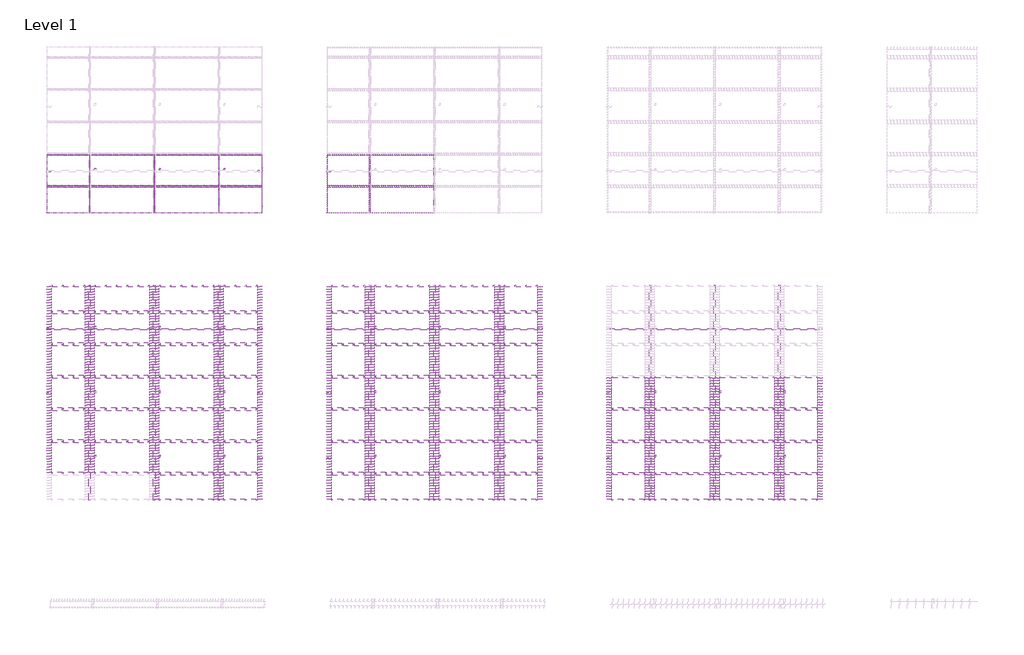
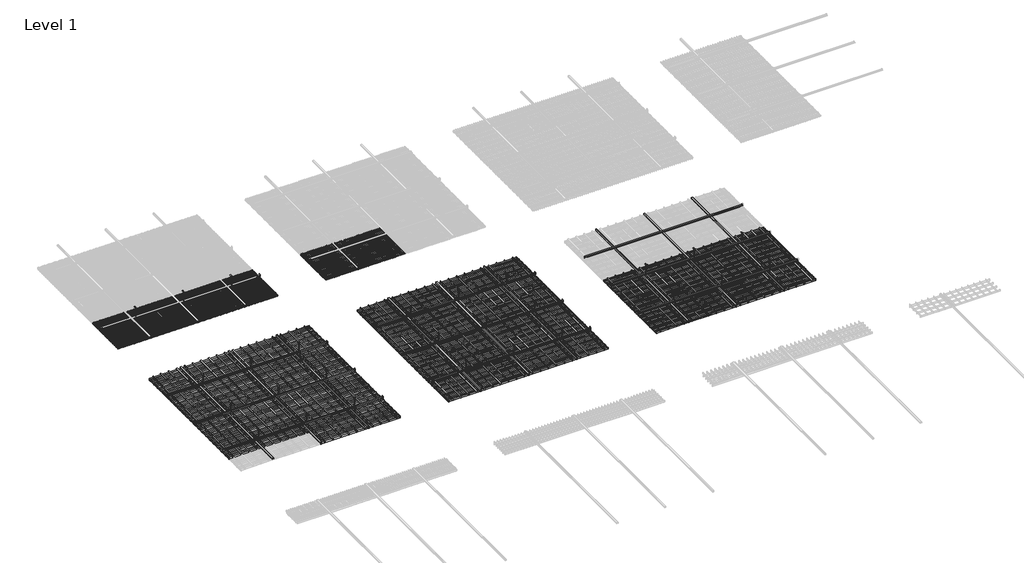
# One storey, part 27 of 32: 137 proxies.
"""IFC4 building model written with IfcOpenShell, lengths in millimetres."""

from ifc_helpers import new_model, si_unit, origin, place, context, project, spatial, transform, mapped, element, save
from components import generic_models_6f951ca4, generic_models_6d1325e8, generic_models_8d9bcc0e, generic_models_f4ce44e0, generic_models_5ffb89bc, generic_models_532bcb0d, generic_models_b040cb43, generic_models_bbbf1810, generic_models_8942baac, generic_models_6e84f04d, generic_models_dcda3682, generic_models_90ec37a6, generic_models_4fd2051e, generic_models_a47dbadd, generic_models_69343ad7, generic_models_9f873a07, generic_models_7333d896, generic_models_9e2ca137, generic_models_001e4b3a, generic_models_ea39767a, generic_models_2c5692c7, generic_models_a736a9a8, generic_models_489bbaa8, generic_models_f6474ad0, generic_models_28f6a95c, generic_models_9e18e937

model = new_model("IFC4")

# Units and contexts
model_context = context("Model", 3, world=origin())
ifc_project = project(units=[si_unit("LENGTHUNIT", "METRE", prefix="MILLI")], contexts=[model_context])

# Site, building, storey
site = spatial("IfcSite", under=ifc_project)
building = spatial("IfcBuilding", under=site)
storey = spatial("IfcBuildingStorey", under=building, Name="Level 1", Elevation=0.0)

# Proxies
placement = place(None, origin())
generic_models_shape = generic_models_6f951ca4(model_context)
element("IfcBuildingElementProxy", 1, Name="durlum_STARLAM_panel : durlum_STARLAM_4", ObjectType="durlum_STARLAM_panel : durlum_STARLAM_4", at=placement, inside=storey, context=model_context, shape_type="MappedRepresentation", body=[
    mapped(generic_models_shape, transform((35317.1423778, 3138.9976834, 3700.0), x_axis=(1.0, 0.0, 0.0), y_axis=(0.0, 1.0, 0.0), z_axis=(0.0, 0.0, 1.0))),
])
element("IfcBuildingElementProxy", 2, Name="durlum_STARLAM_panel : durlum_STARLAM_4", ObjectType="durlum_STARLAM_panel : durlum_STARLAM_4", at=placement, inside=storey, context=model_context, shape_type="MappedRepresentation", body=[
    mapped(generic_models_shape, transform((36517.1423778, 3138.9976834, 3700.0), x_axis=(1.0, 0.0, 0.0), y_axis=(0.0, 1.0, 0.0), z_axis=(0.0, 0.0, 1.0))),
])
element("IfcBuildingElementProxy", 3, Name="durlum_STARLAM_panel : durlum_STARLAM_4", ObjectType="durlum_STARLAM_panel : durlum_STARLAM_4", at=placement, inside=storey, context=model_context, shape_type="MappedRepresentation", body=[
    mapped(generic_models_shape, transform((35317.1423778, 3738.9976834, 3700.0), x_axis=(1.0, 0.0, 0.0), y_axis=(0.0, 1.0, 0.0), z_axis=(0.0, 0.0, 1.0))),
])
element("IfcBuildingElementProxy", 4, Name="durlum_STARLAM_panel : durlum_STARLAM_4", ObjectType="durlum_STARLAM_panel : durlum_STARLAM_4", at=placement, inside=storey, context=model_context, shape_type="MappedRepresentation", body=[
    mapped(generic_models_shape, transform((36517.1423778, 3738.9976834, 3700.0), x_axis=(1.0, 0.0, 0.0), y_axis=(0.0, 1.0, 0.0), z_axis=(0.0, 0.0, 1.0))),
])
element("IfcBuildingElementProxy", 5, Name="durlum_STARLAM_panel : durlum_STARLAM_4", ObjectType="durlum_STARLAM_panel : durlum_STARLAM_4", at=placement, inside=storey, context=model_context, shape_type="MappedRepresentation", body=[
    mapped(generic_models_shape, transform((35317.1423778, 4338.9976834, 3700.0), x_axis=(1.0, 0.0, 0.0), y_axis=(0.0, 1.0, 0.0), z_axis=(0.0, 0.0, 1.0))),
])
element("IfcBuildingElementProxy", 6, Name="durlum_STARLAM_panel : durlum_STARLAM_4", ObjectType="durlum_STARLAM_panel : durlum_STARLAM_4", at=placement, inside=storey, context=model_context, shape_type="MappedRepresentation", body=[
    mapped(generic_models_shape, transform((36517.1423778, 4338.9976834, 3700.0), x_axis=(1.0, 0.0, 0.0), y_axis=(0.0, 1.0, 0.0), z_axis=(0.0, 0.0, 1.0))),
])
element("IfcBuildingElementProxy", 7, Name="durlum_STARLAM_panel : durlum_STARLAM_4", ObjectType="durlum_STARLAM_panel : durlum_STARLAM_4", at=placement, inside=storey, context=model_context, shape_type="MappedRepresentation", body=[
    mapped(generic_models_shape, transform((35317.1423778, 2538.9976834, 3700.0), x_axis=(1.0, 0.0, 0.0), y_axis=(0.0, 1.0, 0.0), z_axis=(0.0, 0.0, 1.0))),
])
element("IfcBuildingElementProxy", 8, Name="durlum_STARLAM_panel : durlum_STARLAM_4", ObjectType="durlum_STARLAM_panel : durlum_STARLAM_4", at=placement, inside=storey, context=model_context, shape_type="MappedRepresentation", body=[
    mapped(generic_models_shape, transform((36517.1423778, 2538.9976834, 3700.0), x_axis=(1.0, 0.0, 0.0), y_axis=(0.0, 1.0, 0.0), z_axis=(0.0, 0.0, 1.0))),
])
element("IfcBuildingElementProxy", 9, Name="durlum_STARLAM_panel : durlum_STARLAM_4", ObjectType="durlum_STARLAM_panel : durlum_STARLAM_4", at=placement, inside=storey, context=model_context, shape_type="MappedRepresentation", body=[
    mapped(generic_models_shape, transform((35317.1423778, 4938.9976834, 3700.0), x_axis=(1.0, 0.0, 0.0), y_axis=(0.0, 1.0, 0.0), z_axis=(0.0, 0.0, 1.0))),
])
element("IfcBuildingElementProxy", 10, Name="durlum_STARLAM_panel : durlum_STARLAM_4", ObjectType="durlum_STARLAM_panel : durlum_STARLAM_4", at=placement, inside=storey, context=model_context, shape_type="MappedRepresentation", body=[
    mapped(generic_models_shape, transform((36517.1423778, 4938.9976834, 3700.0), x_axis=(1.0, 0.0, 0.0), y_axis=(0.0, 1.0, 0.0), z_axis=(0.0, 0.0, 1.0))),
])
generic_models_2_shape = generic_models_6d1325e8(model_context)
element("IfcBuildingElementProxy", 11, Name="durlum_STARLAM_panel : durlum_STARLAM_4_length_cut", ObjectType="durlum_STARLAM_panel : durlum_STARLAM_4_length_cut", at=placement, inside=storey, context=model_context, shape_type="MappedRepresentation", body=[
    mapped(generic_models_2_shape, transform((37517.2673778, 4338.9976834, 3700.0), x_axis=(1.0, 0.0, 0.0), y_axis=(0.0, 1.0, 0.0), z_axis=(0.0, 0.0, 1.0))),
])
element("IfcBuildingElementProxy", 12, Name="durlum_STARLAM_panel : durlum_STARLAM_4_length_cut", ObjectType="durlum_STARLAM_panel : durlum_STARLAM_4_length_cut", at=placement, inside=storey, context=model_context, shape_type="MappedRepresentation", body=[
    mapped(generic_models_2_shape, transform((37517.2673778, 3738.9976834, 3700.0), x_axis=(1.0, 0.0, 0.0), y_axis=(0.0, 1.0, 0.0), z_axis=(0.0, 0.0, 1.0))),
])
element("IfcBuildingElementProxy", 13, Name="durlum_STARLAM_panel : durlum_STARLAM_4_length_cut", ObjectType="durlum_STARLAM_panel : durlum_STARLAM_4_length_cut", at=placement, inside=storey, context=model_context, shape_type="MappedRepresentation", body=[
    mapped(generic_models_2_shape, transform((37517.2673778, 3138.9976834, 3700.0), x_axis=(1.0, 0.0, 0.0), y_axis=(0.0, 1.0, 0.0), z_axis=(0.0, 0.0, 1.0))),
])
element("IfcBuildingElementProxy", 14, Name="durlum_STARLAM_panel : durlum_STARLAM_4_length_cut", ObjectType="durlum_STARLAM_panel : durlum_STARLAM_4_length_cut", at=placement, inside=storey, context=model_context, shape_type="MappedRepresentation", body=[
    mapped(generic_models_2_shape, transform((34317.0173778, 4338.9976834, 3700.0), x_axis=(1.0, 0.0, 0.0), y_axis=(0.0, 1.0, 0.0), z_axis=(0.0, 0.0, 1.0))),
])
element("IfcBuildingElementProxy", 15, Name="durlum_STARLAM_panel : durlum_STARLAM_4_length_cut", ObjectType="durlum_STARLAM_panel : durlum_STARLAM_4_length_cut", at=placement, inside=storey, context=model_context, shape_type="MappedRepresentation", body=[
    mapped(generic_models_2_shape, transform((34317.0173778, 3738.9976834, 3700.0), x_axis=(1.0, 0.0, 0.0), y_axis=(0.0, 1.0, 0.0), z_axis=(0.0, 0.0, 1.0))),
])
element("IfcBuildingElementProxy", 16, Name="durlum_STARLAM_panel : durlum_STARLAM_4_length_cut", ObjectType="durlum_STARLAM_panel : durlum_STARLAM_4_length_cut", at=placement, inside=storey, context=model_context, shape_type="MappedRepresentation", body=[
    mapped(generic_models_2_shape, transform((34317.0173778, 3138.9976834, 3700.0), x_axis=(1.0, 0.0, 0.0), y_axis=(0.0, 1.0, 0.0), z_axis=(0.0, 0.0, 1.0))),
])
element("IfcBuildingElementProxy", 17, Name="durlum_STARLAM_panel : durlum_STARLAM_4_length_cut", ObjectType="durlum_STARLAM_panel : durlum_STARLAM_4_length_cut", at=placement, inside=storey, context=model_context, shape_type="MappedRepresentation", body=[
    mapped(generic_models_2_shape, transform((34317.0173778, 4938.9976834, 3700.0), x_axis=(1.0, 0.0, 0.0), y_axis=(0.0, 1.0, 0.0), z_axis=(0.0, 0.0, 1.0))),
])
element("IfcBuildingElementProxy", 18, Name="durlum_STARLAM_panel : durlum_STARLAM_4_length_cut", ObjectType="durlum_STARLAM_panel : durlum_STARLAM_4_length_cut", at=placement, inside=storey, context=model_context, shape_type="MappedRepresentation", body=[
    mapped(generic_models_2_shape, transform((37517.2673778, 4938.9976834, 3700.0), x_axis=(1.0, 0.0, 0.0), y_axis=(0.0, 1.0, 0.0), z_axis=(0.0, 0.0, 1.0))),
])
element("IfcBuildingElementProxy", 19, Name="durlum_STARLAM_panel : durlum_STARLAM_4_length_cut", ObjectType="durlum_STARLAM_panel : durlum_STARLAM_4_length_cut", at=placement, inside=storey, context=model_context, shape_type="MappedRepresentation", body=[
    mapped(generic_models_2_shape, transform((34317.0173778, 2538.9976834, 3700.0), x_axis=(1.0, 0.0, 0.0), y_axis=(0.0, 1.0, 0.0), z_axis=(0.0, 0.0, 1.0))),
])
element("IfcBuildingElementProxy", 20, Name="durlum_STARLAM_panel : durlum_STARLAM_4_length_cut", ObjectType="durlum_STARLAM_panel : durlum_STARLAM_4_length_cut", at=placement, inside=storey, context=model_context, shape_type="MappedRepresentation", body=[
    mapped(generic_models_2_shape, transform((37517.2673778, 2538.9976834, 3700.0), x_axis=(1.0, 0.0, 0.0), y_axis=(0.0, 1.0, 0.0), z_axis=(0.0, 0.0, 1.0))),
])
generic_models_3_shape = generic_models_8d9bcc0e(model_context)
element("IfcBuildingElementProxy", 21, Name="durlum_STARLAM_panel : durlum_STARLAM_4_width_cut", ObjectType="durlum_STARLAM_panel : durlum_STARLAM_4_width_cut", at=placement, inside=storey, context=model_context, shape_type="MappedRepresentation", body=[
    mapped(generic_models_3_shape, transform((36517.1423778, 1988.9976834, 3700.0), x_axis=(1.0, 0.0, 0.0), y_axis=(0.0, 1.0, 0.0), z_axis=(0.0, 0.0, 1.0))),
])
element("IfcBuildingElementProxy", 22, Name="durlum_STARLAM_panel : durlum_STARLAM_4_width_cut", ObjectType="durlum_STARLAM_panel : durlum_STARLAM_4_width_cut", at=placement, inside=storey, context=model_context, shape_type="MappedRepresentation", body=[
    mapped(generic_models_3_shape, transform((35317.1423778, 5488.9976834, 3700.0), x_axis=(1.0, 0.0, 0.0), y_axis=(0.0, 1.0, 0.0), z_axis=(0.0, 0.0, 1.0))),
])
element("IfcBuildingElementProxy", 23, Name="durlum_STARLAM_panel : durlum_STARLAM_4_width_cut", ObjectType="durlum_STARLAM_panel : durlum_STARLAM_4_width_cut", at=placement, inside=storey, context=model_context, shape_type="MappedRepresentation", body=[
    mapped(generic_models_3_shape, transform((36517.1423778, 5488.9976834, 3700.0), x_axis=(1.0, 0.0, 0.0), y_axis=(0.0, 1.0, 0.0), z_axis=(0.0, 0.0, 1.0))),
])
generic_models_4_shape = generic_models_f4ce44e0(model_context)
element("IfcBuildingElementProxy", 24, Name="durlum_U94 : durlum_U94", ObjectType="durlum_U94 : durlum_U94", at=placement, inside=storey, context=model_context, shape_type="MappedRepresentation", body=[
    mapped(generic_models_4_shape, transform((46317.1423778, 3738.9976834, 3736.0), x_axis=(0.0, 1.0, 0.0), y_axis=(-1.0, 0.0, 0.0), z_axis=(0.0, 0.0, 1.0))),
])
element("IfcBuildingElementProxy", 25, Name="durlum_U94 : durlum_U94", ObjectType="durlum_U94 : durlum_U94", at=placement, inside=storey, context=model_context, shape_type="MappedRepresentation", body=[
    mapped(generic_models_4_shape, transform((45117.1423778, 3738.9976834, 3736.0), x_axis=(0.0, 1.0, 0.0), y_axis=(-1.0, 0.0, 0.0), z_axis=(0.0, 0.0, 1.0))),
])
element("IfcBuildingElementProxy", 26, Name="durlum_U94 : durlum_U94", ObjectType="durlum_U94 : durlum_U94", at=placement, inside=storey, context=model_context, shape_type="MappedRepresentation", body=[
    mapped(generic_models_4_shape, transform((47517.1423778, 3738.9976834, 3736.0), x_axis=(0.0, 1.0, 0.0), y_axis=(-1.0, 0.0, 0.0), z_axis=(0.0, 0.0, 1.0))),
])
element("IfcBuildingElementProxy", 27, Name="durlum_U94 : durlum_U94", ObjectType="durlum_U94 : durlum_U94", at=placement, inside=storey, context=model_context, shape_type="MappedRepresentation", body=[
    mapped(generic_models_4_shape, transform((41117.1423778, 3738.9976834, 3736.0), x_axis=(0.0, 1.0, 0.0), y_axis=(-1.0, 0.0, 0.0), z_axis=(0.0, 0.0, 1.0))),
])
element("IfcBuildingElementProxy", 28, Name="durlum_U94 : durlum_U94", ObjectType="durlum_U94 : durlum_U94", at=placement, inside=storey, context=model_context, shape_type="MappedRepresentation", body=[
    mapped(generic_models_4_shape, transform((39917.1423778, 3738.9976834, 3736.0), x_axis=(0.0, 1.0, 0.0), y_axis=(-1.0, 0.0, 0.0), z_axis=(0.0, 0.0, 1.0))),
])
element("IfcBuildingElementProxy", 29, Name="durlum_U94 : durlum_U94", ObjectType="durlum_U94 : durlum_U94", at=placement, inside=storey, context=model_context, shape_type="MappedRepresentation", body=[
    mapped(generic_models_4_shape, transform((42317.1423778, 3738.9976834, 3736.0), x_axis=(0.0, 1.0, 0.0), y_axis=(-1.0, 0.0, 0.0), z_axis=(0.0, 0.0, 1.0))),
])
element("IfcBuildingElementProxy", 30, Name="durlum_U94 : durlum_U94", ObjectType="durlum_U94 : durlum_U94", at=placement, inside=storey, context=model_context, shape_type="MappedRepresentation", body=[
    mapped(generic_models_4_shape, transform((35917.1423778, 3738.9976834, 3736.0), x_axis=(0.0, 1.0, 0.0), y_axis=(-1.0, 0.0, 0.0), z_axis=(0.0, 0.0, 1.0))),
])
element("IfcBuildingElementProxy", 31, Name="durlum_U94 : durlum_U94", ObjectType="durlum_U94 : durlum_U94", at=placement, inside=storey, context=model_context, shape_type="MappedRepresentation", body=[
    mapped(generic_models_4_shape, transform((34717.1423778, 3738.9976834, 3736.0), x_axis=(0.0, 1.0, 0.0), y_axis=(-1.0, 0.0, 0.0), z_axis=(0.0, 0.0, 1.0))),
])
element("IfcBuildingElementProxy", 32, Name="durlum_U94 : durlum_U94", ObjectType="durlum_U94 : durlum_U94", at=placement, inside=storey, context=model_context, shape_type="MappedRepresentation", body=[
    mapped(generic_models_4_shape, transform((37117.1423778, 3738.9976834, 3736.0), x_axis=(0.0, 1.0, 0.0), y_axis=(-1.0, 0.0, 0.0), z_axis=(0.0, 0.0, 1.0))),
])
generic_models_5_shape = generic_models_5ffb89bc(model_context)
element("IfcBuildingElementProxy", 33, Name="durlum_STARLAM_panel : durlum_STARLAM_4_corner_cut", ObjectType="durlum_STARLAM_panel : durlum_STARLAM_4_corner_cut", at=placement, inside=storey, context=model_context, shape_type="MappedRepresentation", body=[
    mapped(generic_models_5_shape, transform((37517.2673778, 5488.9976834, 3700.0), x_axis=(1.0, 0.0, 0.0), y_axis=(0.0, 1.0, 0.0), z_axis=(0.0, 0.0, 1.0))),
])
element("IfcBuildingElementProxy", 34, Name="durlum_STARLAM_panel : durlum_STARLAM_4_corner_cut", ObjectType="durlum_STARLAM_panel : durlum_STARLAM_4_corner_cut", at=placement, inside=storey, context=model_context, shape_type="MappedRepresentation", body=[
    mapped(generic_models_5_shape, transform((37517.2673778, 1988.9976834, 3700.0), x_axis=(1.0, 0.0, 0.0), y_axis=(0.0, 1.0, 0.0), z_axis=(0.0, 0.0, 1.0))),
])
element("IfcBuildingElementProxy", 35, Name="durlum_STARLAM_panel : durlum_STARLAM_4_corner_cut", ObjectType="durlum_STARLAM_panel : durlum_STARLAM_4_corner_cut", at=placement, inside=storey, context=model_context, shape_type="MappedRepresentation", body=[
    mapped(generic_models_5_shape, transform((34317.0173778, 5488.9976834, 3700.0), x_axis=(1.0, 0.0, 0.0), y_axis=(0.0, 1.0, 0.0), z_axis=(0.0, 0.0, 1.0))),
])
generic_models_6_shape = generic_models_532bcb0d(model_context)
element("IfcBuildingElementProxy", 36, Name="durlum_STARLAM_panel : durlum_STARLAM_9", ObjectType="durlum_STARLAM_panel : durlum_STARLAM_9", at=placement, inside=storey, context=model_context, shape_type="MappedRepresentation", body=[
    mapped(generic_models_6_shape, transform((40517.1423778, 3138.9976834, 3700.0), x_axis=(1.0, 0.0, 0.0), y_axis=(0.0, 1.0, 0.0), z_axis=(0.0, 0.0, 1.0))),
])
element("IfcBuildingElementProxy", 37, Name="durlum_STARLAM_panel : durlum_STARLAM_9", ObjectType="durlum_STARLAM_panel : durlum_STARLAM_9", at=placement, inside=storey, context=model_context, shape_type="MappedRepresentation", body=[
    mapped(generic_models_6_shape, transform((41717.1423778, 3138.9976834, 3700.0), x_axis=(1.0, 0.0, 0.0), y_axis=(0.0, 1.0, 0.0), z_axis=(0.0, 0.0, 1.0))),
])
element("IfcBuildingElementProxy", 38, Name="durlum_STARLAM_panel : durlum_STARLAM_9", ObjectType="durlum_STARLAM_panel : durlum_STARLAM_9", at=placement, inside=storey, context=model_context, shape_type="MappedRepresentation", body=[
    mapped(generic_models_6_shape, transform((40517.1423778, 3738.9976834, 3700.0), x_axis=(1.0, 0.0, 0.0), y_axis=(0.0, 1.0, 0.0), z_axis=(0.0, 0.0, 1.0))),
])
element("IfcBuildingElementProxy", 39, Name="durlum_STARLAM_panel : durlum_STARLAM_9", ObjectType="durlum_STARLAM_panel : durlum_STARLAM_9", at=placement, inside=storey, context=model_context, shape_type="MappedRepresentation", body=[
    mapped(generic_models_6_shape, transform((41717.1423778, 3738.9976834, 3700.0), x_axis=(1.0, 0.0, 0.0), y_axis=(0.0, 1.0, 0.0), z_axis=(0.0, 0.0, 1.0))),
])
element("IfcBuildingElementProxy", 40, Name="durlum_STARLAM_panel : durlum_STARLAM_9", ObjectType="durlum_STARLAM_panel : durlum_STARLAM_9", at=placement, inside=storey, context=model_context, shape_type="MappedRepresentation", body=[
    mapped(generic_models_6_shape, transform((40517.1423778, 4338.9976834, 3700.0), x_axis=(1.0, 0.0, 0.0), y_axis=(0.0, 1.0, 0.0), z_axis=(0.0, 0.0, 1.0))),
])
element("IfcBuildingElementProxy", 41, Name="durlum_STARLAM_panel : durlum_STARLAM_9", ObjectType="durlum_STARLAM_panel : durlum_STARLAM_9", at=placement, inside=storey, context=model_context, shape_type="MappedRepresentation", body=[
    mapped(generic_models_6_shape, transform((41717.1423778, 4338.9976834, 3700.0), x_axis=(1.0, 0.0, 0.0), y_axis=(0.0, 1.0, 0.0), z_axis=(0.0, 0.0, 1.0))),
])
element("IfcBuildingElementProxy", 42, Name="durlum_STARLAM_panel : durlum_STARLAM_9", ObjectType="durlum_STARLAM_panel : durlum_STARLAM_9", at=placement, inside=storey, context=model_context, shape_type="MappedRepresentation", body=[
    mapped(generic_models_6_shape, transform((40517.1423778, 2538.9976834, 3700.0), x_axis=(1.0, 0.0, 0.0), y_axis=(0.0, 1.0, 0.0), z_axis=(0.0, 0.0, 1.0))),
])
element("IfcBuildingElementProxy", 43, Name="durlum_STARLAM_panel : durlum_STARLAM_9", ObjectType="durlum_STARLAM_panel : durlum_STARLAM_9", at=placement, inside=storey, context=model_context, shape_type="MappedRepresentation", body=[
    mapped(generic_models_6_shape, transform((41717.1423778, 2538.9976834, 3700.0), x_axis=(1.0, 0.0, 0.0), y_axis=(0.0, 1.0, 0.0), z_axis=(0.0, 0.0, 1.0))),
])
element("IfcBuildingElementProxy", 44, Name="durlum_STARLAM_panel : durlum_STARLAM_9", ObjectType="durlum_STARLAM_panel : durlum_STARLAM_9", at=placement, inside=storey, context=model_context, shape_type="MappedRepresentation", body=[
    mapped(generic_models_6_shape, transform((40517.1423778, 4938.9976834, 3700.0), x_axis=(1.0, 0.0, 0.0), y_axis=(0.0, 1.0, 0.0), z_axis=(0.0, 0.0, 1.0))),
])
element("IfcBuildingElementProxy", 45, Name="durlum_STARLAM_panel : durlum_STARLAM_9", ObjectType="durlum_STARLAM_panel : durlum_STARLAM_9", at=placement, inside=storey, context=model_context, shape_type="MappedRepresentation", body=[
    mapped(generic_models_6_shape, transform((41717.1423778, 4938.9976834, 3700.0), x_axis=(1.0, 0.0, 0.0), y_axis=(0.0, 1.0, 0.0), z_axis=(0.0, 0.0, 1.0))),
])
generic_models_7_shape = generic_models_b040cb43(model_context)
element("IfcBuildingElementProxy", 46, Name="durlum_STARLAM_panel : durlum_STARLAM_9_length_cut", ObjectType="durlum_STARLAM_panel : durlum_STARLAM_9_length_cut", at=placement, inside=storey, context=model_context, shape_type="MappedRepresentation", body=[
    mapped(generic_models_7_shape, transform((42717.2673778, 4338.9976834, 3700.0), x_axis=(1.0, 0.0, 0.0), y_axis=(0.0, 1.0, 0.0), z_axis=(0.0, 0.0, 1.0))),
])
element("IfcBuildingElementProxy", 47, Name="durlum_STARLAM_panel : durlum_STARLAM_9_length_cut", ObjectType="durlum_STARLAM_panel : durlum_STARLAM_9_length_cut", at=placement, inside=storey, context=model_context, shape_type="MappedRepresentation", body=[
    mapped(generic_models_7_shape, transform((42717.2673778, 3738.9976834, 3700.0), x_axis=(1.0, 0.0, 0.0), y_axis=(0.0, 1.0, 0.0), z_axis=(0.0, 0.0, 1.0))),
])
element("IfcBuildingElementProxy", 48, Name="durlum_STARLAM_panel : durlum_STARLAM_9_length_cut", ObjectType="durlum_STARLAM_panel : durlum_STARLAM_9_length_cut", at=placement, inside=storey, context=model_context, shape_type="MappedRepresentation", body=[
    mapped(generic_models_7_shape, transform((42717.2673778, 3138.9976834, 3700.0), x_axis=(1.0, 0.0, 0.0), y_axis=(0.0, 1.0, 0.0), z_axis=(0.0, 0.0, 1.0))),
])
element("IfcBuildingElementProxy", 49, Name="durlum_STARLAM_panel : durlum_STARLAM_9_length_cut", ObjectType="durlum_STARLAM_panel : durlum_STARLAM_9_length_cut", at=placement, inside=storey, context=model_context, shape_type="MappedRepresentation", body=[
    mapped(generic_models_7_shape, transform((39517.0173778, 4338.9976834, 3700.0), x_axis=(1.0, 0.0, 0.0), y_axis=(0.0, 1.0, 0.0), z_axis=(0.0, 0.0, 1.0))),
])
element("IfcBuildingElementProxy", 50, Name="durlum_STARLAM_panel : durlum_STARLAM_9_length_cut", ObjectType="durlum_STARLAM_panel : durlum_STARLAM_9_length_cut", at=placement, inside=storey, context=model_context, shape_type="MappedRepresentation", body=[
    mapped(generic_models_7_shape, transform((39517.0173778, 3738.9976834, 3700.0), x_axis=(1.0, 0.0, 0.0), y_axis=(0.0, 1.0, 0.0), z_axis=(0.0, 0.0, 1.0))),
])
element("IfcBuildingElementProxy", 51, Name="durlum_STARLAM_panel : durlum_STARLAM_9_length_cut", ObjectType="durlum_STARLAM_panel : durlum_STARLAM_9_length_cut", at=placement, inside=storey, context=model_context, shape_type="MappedRepresentation", body=[
    mapped(generic_models_7_shape, transform((39517.0173778, 3138.9976834, 3700.0), x_axis=(1.0, 0.0, 0.0), y_axis=(0.0, 1.0, 0.0), z_axis=(0.0, 0.0, 1.0))),
])
element("IfcBuildingElementProxy", 52, Name="durlum_STARLAM_panel : durlum_STARLAM_9_length_cut", ObjectType="durlum_STARLAM_panel : durlum_STARLAM_9_length_cut", at=placement, inside=storey, context=model_context, shape_type="MappedRepresentation", body=[
    mapped(generic_models_7_shape, transform((39517.0173778, 4938.9976834, 3700.0), x_axis=(1.0, 0.0, 0.0), y_axis=(0.0, 1.0, 0.0), z_axis=(0.0, 0.0, 1.0))),
])
element("IfcBuildingElementProxy", 53, Name="durlum_STARLAM_panel : durlum_STARLAM_9_length_cut", ObjectType="durlum_STARLAM_panel : durlum_STARLAM_9_length_cut", at=placement, inside=storey, context=model_context, shape_type="MappedRepresentation", body=[
    mapped(generic_models_7_shape, transform((42717.2673778, 4938.9976834, 3700.0), x_axis=(1.0, 0.0, 0.0), y_axis=(0.0, 1.0, 0.0), z_axis=(0.0, 0.0, 1.0))),
])
element("IfcBuildingElementProxy", 54, Name="durlum_STARLAM_panel : durlum_STARLAM_9_length_cut", ObjectType="durlum_STARLAM_panel : durlum_STARLAM_9_length_cut", at=placement, inside=storey, context=model_context, shape_type="MappedRepresentation", body=[
    mapped(generic_models_7_shape, transform((39517.0173778, 2538.9976834, 3700.0), x_axis=(1.0, 0.0, 0.0), y_axis=(0.0, 1.0, 0.0), z_axis=(0.0, 0.0, 1.0))),
])
element("IfcBuildingElementProxy", 55, Name="durlum_STARLAM_panel : durlum_STARLAM_9_length_cut", ObjectType="durlum_STARLAM_panel : durlum_STARLAM_9_length_cut", at=placement, inside=storey, context=model_context, shape_type="MappedRepresentation", body=[
    mapped(generic_models_7_shape, transform((42717.2673778, 2538.9976834, 3700.0), x_axis=(1.0, 0.0, 0.0), y_axis=(0.0, 1.0, 0.0), z_axis=(0.0, 0.0, 1.0))),
])
generic_models_8_shape = generic_models_bbbf1810(model_context)
element("IfcBuildingElementProxy", 56, Name="durlum_STARLAM_panel : durlum_STARLAM_9_width_cut", ObjectType="durlum_STARLAM_panel : durlum_STARLAM_9_width_cut", at=placement, inside=storey, context=model_context, shape_type="MappedRepresentation", body=[
    mapped(generic_models_8_shape, transform((40517.1423778, 1988.9976834, 3700.0), x_axis=(1.0, 0.0, 0.0), y_axis=(0.0, 1.0, 0.0), z_axis=(0.0, 0.0, 1.0))),
])
element("IfcBuildingElementProxy", 57, Name="durlum_STARLAM_panel : durlum_STARLAM_9_width_cut", ObjectType="durlum_STARLAM_panel : durlum_STARLAM_9_width_cut", at=placement, inside=storey, context=model_context, shape_type="MappedRepresentation", body=[
    mapped(generic_models_8_shape, transform((41717.1423778, 1988.9976834, 3700.0), x_axis=(1.0, 0.0, 0.0), y_axis=(0.0, 1.0, 0.0), z_axis=(0.0, 0.0, 1.0))),
])
element("IfcBuildingElementProxy", 58, Name="durlum_STARLAM_panel : durlum_STARLAM_9_width_cut", ObjectType="durlum_STARLAM_panel : durlum_STARLAM_9_width_cut", at=placement, inside=storey, context=model_context, shape_type="MappedRepresentation", body=[
    mapped(generic_models_8_shape, transform((40517.1423778, 5488.9976834, 3700.0), x_axis=(1.0, 0.0, 0.0), y_axis=(0.0, 1.0, 0.0), z_axis=(0.0, 0.0, 1.0))),
])
element("IfcBuildingElementProxy", 59, Name="durlum_STARLAM_panel : durlum_STARLAM_9_width_cut", ObjectType="durlum_STARLAM_panel : durlum_STARLAM_9_width_cut", at=placement, inside=storey, context=model_context, shape_type="MappedRepresentation", body=[
    mapped(generic_models_8_shape, transform((41717.1423778, 5488.9976834, 3700.0), x_axis=(1.0, 0.0, 0.0), y_axis=(0.0, 1.0, 0.0), z_axis=(0.0, 0.0, 1.0))),
])
generic_models_9_shape = generic_models_8942baac(model_context)
element("IfcBuildingElementProxy", 60, Name="durlum_STARLAM_panel : durlum_STARLAM_9_corner_cut", ObjectType="durlum_STARLAM_panel : durlum_STARLAM_9_corner_cut", at=placement, inside=storey, context=model_context, shape_type="MappedRepresentation", body=[
    mapped(generic_models_9_shape, transform((42717.2673778, 5488.9976834, 3700.0), x_axis=(1.0, 0.0, 0.0), y_axis=(0.0, 1.0, 0.0), z_axis=(0.0, 0.0, 1.0))),
])
element("IfcBuildingElementProxy", 61, Name="durlum_STARLAM_panel : durlum_STARLAM_9_corner_cut", ObjectType="durlum_STARLAM_panel : durlum_STARLAM_9_corner_cut", at=placement, inside=storey, context=model_context, shape_type="MappedRepresentation", body=[
    mapped(generic_models_9_shape, transform((42717.2673778, 1988.9976834, 3700.0), x_axis=(1.0, 0.0, 0.0), y_axis=(0.0, 1.0, 0.0), z_axis=(0.0, 0.0, 1.0))),
])
element("IfcBuildingElementProxy", 62, Name="durlum_STARLAM_panel : durlum_STARLAM_9_corner_cut", ObjectType="durlum_STARLAM_panel : durlum_STARLAM_9_corner_cut", at=placement, inside=storey, context=model_context, shape_type="MappedRepresentation", body=[
    mapped(generic_models_9_shape, transform((39517.0173778, 1988.9976834, 3700.0), x_axis=(1.0, 0.0, 0.0), y_axis=(0.0, 1.0, 0.0), z_axis=(0.0, 0.0, 1.0))),
])
element("IfcBuildingElementProxy", 63, Name="durlum_STARLAM_panel : durlum_STARLAM_9_corner_cut", ObjectType="durlum_STARLAM_panel : durlum_STARLAM_9_corner_cut", at=placement, inside=storey, context=model_context, shape_type="MappedRepresentation", body=[
    mapped(generic_models_9_shape, transform((39517.0173778, 5488.9976834, 3700.0), x_axis=(1.0, 0.0, 0.0), y_axis=(0.0, 1.0, 0.0), z_axis=(0.0, 0.0, 1.0))),
])
generic_models_10_shape = generic_models_6e84f04d(model_context)
element("IfcBuildingElementProxy", 64, Name="durlum_STARLAM_15 : durlum_STARLAM_15", ObjectType="durlum_STARLAM_15 : durlum_STARLAM_15", at=placement, inside=storey, context=model_context, shape_type="MappedRepresentation", body=[
    mapped(generic_models_10_shape, transform((46317.1423778, 3738.9976834, 0.0), x_axis=(1.0, 0.0, 0.0), y_axis=(0.0, 1.0, 0.0), z_axis=(0.0, 0.0, 1.0))),
])
element("IfcBuildingElementProxy", 65, Name="durlum_STARLAM_9 : durlum_STARLAM_9", ObjectType="durlum_STARLAM_9 : durlum_STARLAM_9", at=placement, inside=storey, context=model_context, shape_type="MappedRepresentation", body=[
    mapped(generic_models_10_shape, transform((41117.1423778, 3738.9976834, 0.0), x_axis=(1.0, 0.0, 0.0), y_axis=(0.0, 1.0, 0.0), z_axis=(0.0, 0.0, 1.0))),
])
element("IfcBuildingElementProxy", 66, Name="durlum_STARLAM_4 : durlum_STARLAM_4", ObjectType="durlum_STARLAM_4 : durlum_STARLAM_4", at=placement, inside=storey, context=model_context, shape_type="MappedRepresentation", body=[
    mapped(generic_models_10_shape, transform((35917.1423778, 3738.9976834, 0.0), x_axis=(1.0, 0.0, 0.0), y_axis=(0.0, 1.0, 0.0), z_axis=(0.0, 0.0, 1.0))),
])
generic_models_11_shape = generic_models_dcda3682(model_context)
element("IfcBuildingElementProxy", 67, Name="durlum_QUADRA_panel : durlum_QUADRA_length_cut", ObjectType="durlum_QUADRA_panel : durlum_QUADRA_length_cut", at=placement, inside=storey, context=model_context, shape_type="MappedRepresentation", body=[
    mapped(generic_models_11_shape, transform((34316.8923778, 7873.8007196, 3700.0), x_axis=(1.0, 0.0, 0.0), y_axis=(0.0, 1.0, 0.0), z_axis=(0.0, 0.0, 1.0))),
])
element("IfcBuildingElementProxy", 68, Name="durlum_QUADRA_panel : durlum_QUADRA_length_cut", ObjectType="durlum_QUADRA_panel : durlum_QUADRA_length_cut", at=placement, inside=storey, context=model_context, shape_type="MappedRepresentation", body=[
    mapped(generic_models_11_shape, transform((37517.3923778, 7873.8007196, 3700.0), x_axis=(1.0, 0.0, 0.0), y_axis=(0.0, 1.0, 0.0), z_axis=(0.0, 0.0, 1.0))),
])
generic_models_12_shape = generic_models_90ec37a6(model_context)
element("IfcBuildingElementProxy", 69, Name="durlum_QUADRA_panel : durlum_QUADRA_width_cut", ObjectType="durlum_QUADRA_panel : durlum_QUADRA_width_cut", at=placement, inside=storey, context=model_context, shape_type="MappedRepresentation", body=[
    mapped(generic_models_12_shape, transform((35317.1423778, 7323.8007196, 3700.0), x_axis=(1.0, 0.0, 0.0), y_axis=(0.0, 1.0, 0.0), z_axis=(0.0, 0.0, 1.0))),
])
element("IfcBuildingElementProxy", 70, Name="durlum_QUADRA_panel : durlum_QUADRA_width_cut", ObjectType="durlum_QUADRA_panel : durlum_QUADRA_width_cut", at=placement, inside=storey, context=model_context, shape_type="MappedRepresentation", body=[
    mapped(generic_models_12_shape, transform((36517.1423778, 7323.8007196, 3700.0), x_axis=(1.0, 0.0, 0.0), y_axis=(0.0, 1.0, 0.0), z_axis=(0.0, 0.0, 1.0))),
])
generic_models_13_shape = generic_models_4fd2051e(model_context)
element("IfcBuildingElementProxy", 71, Name="durlum_QUADRA_panel : durlum_QUADRA", ObjectType="durlum_QUADRA_panel : durlum_QUADRA", at=placement, inside=storey, context=model_context, shape_type="MappedRepresentation", body=[
    mapped(generic_models_13_shape, transform((35317.1423778, 7873.8007196, 3700.0), x_axis=(1.0, 0.0, 0.0), y_axis=(0.0, 1.0, 0.0), z_axis=(0.0, 0.0, 1.0))),
])
element("IfcBuildingElementProxy", 72, Name="durlum_QUADRA_panel : durlum_QUADRA", ObjectType="durlum_QUADRA_panel : durlum_QUADRA", at=placement, inside=storey, context=model_context, shape_type="MappedRepresentation", body=[
    mapped(generic_models_13_shape, transform((36517.1423778, 7873.8007196, 3700.0), x_axis=(1.0, 0.0, 0.0), y_axis=(0.0, 1.0, 0.0), z_axis=(0.0, 0.0, 1.0))),
])
generic_models_14_shape = generic_models_a47dbadd(model_context)
element("IfcBuildingElementProxy", 73, Name="durlum_QUADRA_panel : durlum_QUADRA_corner_cut", ObjectType="durlum_QUADRA_panel : durlum_QUADRA_corner_cut", at=placement, inside=storey, context=model_context, shape_type="MappedRepresentation", body=[
    mapped(generic_models_14_shape, transform((34316.8923778, 7323.8007196, 3700.0), x_axis=(1.0, 0.0, 0.0), y_axis=(0.0, 1.0, 0.0), z_axis=(0.0, 0.0, 1.0))),
])
element("IfcBuildingElementProxy", 74, Name="durlum_QUADRA_panel : durlum_QUADRA_corner_cut", ObjectType="durlum_QUADRA_panel : durlum_QUADRA_corner_cut", at=placement, inside=storey, context=model_context, shape_type="MappedRepresentation", body=[
    mapped(generic_models_14_shape, transform((37517.3923778, 7323.8007196, 3700.0), x_axis=(1.0, 0.0, 0.0), y_axis=(0.0, 1.0, 0.0), z_axis=(0.0, 0.0, 1.0))),
])
generic_models_15_shape = generic_models_69343ad7(model_context)
element("IfcBuildingElementProxy", 75, Name="durlum_STARLAM_panel : durlum_STARLAM_15", ObjectType="durlum_STARLAM_panel : durlum_STARLAM_15", at=placement, inside=storey, context=model_context, shape_type="MappedRepresentation", body=[
    mapped(generic_models_15_shape, transform((45717.1423778, 3138.9976834, 3700.0), x_axis=(1.0, 0.0, 0.0), y_axis=(0.0, 1.0, 0.0), z_axis=(0.0, 0.0, 1.0))),
])
element("IfcBuildingElementProxy", 76, Name="durlum_STARLAM_panel : durlum_STARLAM_15", ObjectType="durlum_STARLAM_panel : durlum_STARLAM_15", at=placement, inside=storey, context=model_context, shape_type="MappedRepresentation", body=[
    mapped(generic_models_15_shape, transform((46917.1423778, 3138.9976834, 3700.0), x_axis=(1.0, 0.0, 0.0), y_axis=(0.0, 1.0, 0.0), z_axis=(0.0, 0.0, 1.0))),
])
element("IfcBuildingElementProxy", 77, Name="durlum_STARLAM_panel : durlum_STARLAM_15", ObjectType="durlum_STARLAM_panel : durlum_STARLAM_15", at=placement, inside=storey, context=model_context, shape_type="MappedRepresentation", body=[
    mapped(generic_models_15_shape, transform((45717.1423778, 3738.9976834, 3700.0), x_axis=(1.0, 0.0, 0.0), y_axis=(0.0, 1.0, 0.0), z_axis=(0.0, 0.0, 1.0))),
])
element("IfcBuildingElementProxy", 78, Name="durlum_STARLAM_panel : durlum_STARLAM_15", ObjectType="durlum_STARLAM_panel : durlum_STARLAM_15", at=placement, inside=storey, context=model_context, shape_type="MappedRepresentation", body=[
    mapped(generic_models_15_shape, transform((46917.1423778, 3738.9976834, 3700.0), x_axis=(1.0, 0.0, 0.0), y_axis=(0.0, 1.0, 0.0), z_axis=(0.0, 0.0, 1.0))),
])
element("IfcBuildingElementProxy", 79, Name="durlum_STARLAM_panel : durlum_STARLAM_15", ObjectType="durlum_STARLAM_panel : durlum_STARLAM_15", at=placement, inside=storey, context=model_context, shape_type="MappedRepresentation", body=[
    mapped(generic_models_15_shape, transform((45717.1423778, 2538.9976834, 3700.0), x_axis=(1.0, 0.0, 0.0), y_axis=(0.0, 1.0, 0.0), z_axis=(0.0, 0.0, 1.0))),
])
element("IfcBuildingElementProxy", 80, Name="durlum_STARLAM_panel : durlum_STARLAM_15", ObjectType="durlum_STARLAM_panel : durlum_STARLAM_15", at=placement, inside=storey, context=model_context, shape_type="MappedRepresentation", body=[
    mapped(generic_models_15_shape, transform((46917.1423778, 2538.9976834, 3700.0), x_axis=(1.0, 0.0, 0.0), y_axis=(0.0, 1.0, 0.0), z_axis=(0.0, 0.0, 1.0))),
])
generic_models_16_shape = generic_models_9f873a07(model_context)
element("IfcBuildingElementProxy", 81, Name="durlum_STARLAM_panel : durlum_STARLAM_15_length_cut", ObjectType="durlum_STARLAM_panel : durlum_STARLAM_15_length_cut", at=placement, inside=storey, context=model_context, shape_type="MappedRepresentation", body=[
    mapped(generic_models_16_shape, transform((47917.2673778, 3738.9976834, 3700.0), x_axis=(1.0, 0.0, 0.0), y_axis=(0.0, 1.0, 0.0), z_axis=(0.0, 0.0, 1.0))),
])
element("IfcBuildingElementProxy", 82, Name="durlum_STARLAM_panel : durlum_STARLAM_15_length_cut", ObjectType="durlum_STARLAM_panel : durlum_STARLAM_15_length_cut", at=placement, inside=storey, context=model_context, shape_type="MappedRepresentation", body=[
    mapped(generic_models_16_shape, transform((47917.2673778, 3138.9976834, 3700.0), x_axis=(1.0, 0.0, 0.0), y_axis=(0.0, 1.0, 0.0), z_axis=(0.0, 0.0, 1.0))),
])
element("IfcBuildingElementProxy", 83, Name="durlum_STARLAM_panel : durlum_STARLAM_15_length_cut", ObjectType="durlum_STARLAM_panel : durlum_STARLAM_15_length_cut", at=placement, inside=storey, context=model_context, shape_type="MappedRepresentation", body=[
    mapped(generic_models_16_shape, transform((44717.0173778, 3738.9976834, 3700.0), x_axis=(1.0, 0.0, 0.0), y_axis=(0.0, 1.0, 0.0), z_axis=(0.0, 0.0, 1.0))),
])
element("IfcBuildingElementProxy", 84, Name="durlum_STARLAM_panel : durlum_STARLAM_15_length_cut", ObjectType="durlum_STARLAM_panel : durlum_STARLAM_15_length_cut", at=placement, inside=storey, context=model_context, shape_type="MappedRepresentation", body=[
    mapped(generic_models_16_shape, transform((44717.0173778, 3138.9976834, 3700.0), x_axis=(1.0, 0.0, 0.0), y_axis=(0.0, 1.0, 0.0), z_axis=(0.0, 0.0, 1.0))),
])
element("IfcBuildingElementProxy", 85, Name="durlum_STARLAM_panel : durlum_STARLAM_15_length_cut", ObjectType="durlum_STARLAM_panel : durlum_STARLAM_15_length_cut", at=placement, inside=storey, context=model_context, shape_type="MappedRepresentation", body=[
    mapped(generic_models_16_shape, transform((44717.0173778, 2538.9976834, 3700.0), x_axis=(1.0, 0.0, 0.0), y_axis=(0.0, 1.0, 0.0), z_axis=(0.0, 0.0, 1.0))),
])
element("IfcBuildingElementProxy", 86, Name="durlum_STARLAM_panel : durlum_STARLAM_15_length_cut", ObjectType="durlum_STARLAM_panel : durlum_STARLAM_15_length_cut", at=placement, inside=storey, context=model_context, shape_type="MappedRepresentation", body=[
    mapped(generic_models_16_shape, transform((47917.2673778, 2538.9976834, 3700.0), x_axis=(1.0, 0.0, 0.0), y_axis=(0.0, 1.0, 0.0), z_axis=(0.0, 0.0, 1.0))),
])
generic_models_17_shape = generic_models_7333d896(model_context)
element("IfcBuildingElementProxy", 87, Name="durlum_STARLAM_panel : durlum_STARLAM_15_width_cut", ObjectType="durlum_STARLAM_panel : durlum_STARLAM_15_width_cut", at=placement, inside=storey, context=model_context, shape_type="MappedRepresentation", body=[
    mapped(generic_models_17_shape, transform((45717.1423778, 1988.9976834, 3700.0), x_axis=(1.0, 0.0, 0.0), y_axis=(0.0, 1.0, 0.0), z_axis=(0.0, 0.0, 1.0))),
])
element("IfcBuildingElementProxy", 88, Name="durlum_STARLAM_panel : durlum_STARLAM_15_width_cut", ObjectType="durlum_STARLAM_panel : durlum_STARLAM_15_width_cut", at=placement, inside=storey, context=model_context, shape_type="MappedRepresentation", body=[
    mapped(generic_models_17_shape, transform((46917.1423778, 1988.9976834, 3700.0), x_axis=(1.0, 0.0, 0.0), y_axis=(0.0, 1.0, 0.0), z_axis=(0.0, 0.0, 1.0))),
])
generic_models_18_shape = generic_models_9e2ca137(model_context)
element("IfcBuildingElementProxy", 89, Name="durlum_STARLAM_panel : durlum_STARLAM_15_corner_cut", ObjectType="durlum_STARLAM_panel : durlum_STARLAM_15_corner_cut", at=placement, inside=storey, context=model_context, shape_type="MappedRepresentation", body=[
    mapped(generic_models_18_shape, transform((47917.2673778, 1988.9976834, 3700.0), x_axis=(1.0, 0.0, 0.0), y_axis=(0.0, 1.0, 0.0), z_axis=(0.0, 0.0, 1.0))),
])
element("IfcBuildingElementProxy", 90, Name="durlum_STARLAM_panel : durlum_STARLAM_15_corner_cut", ObjectType="durlum_STARLAM_panel : durlum_STARLAM_15_corner_cut", at=placement, inside=storey, context=model_context, shape_type="MappedRepresentation", body=[
    mapped(generic_models_18_shape, transform((44717.0173778, 1988.9976834, 3700.0), x_axis=(1.0, 0.0, 0.0), y_axis=(0.0, 1.0, 0.0), z_axis=(0.0, 0.0, 1.0))),
])
generic_models_19_shape = generic_models_001e4b3a(model_context)
element("IfcBuildingElementProxy", 91, Name="durlum_QUADRA_panel : durlum_QUADRA_length_cut", ObjectType="durlum_QUADRA_panel : durlum_QUADRA_length_cut", at=placement, inside=storey, context=model_context, shape_type="MappedRepresentation", body=[
    mapped(generic_models_19_shape, transform((39516.8923778, 7873.8007196, 3700.0), x_axis=(1.0, 0.0, 0.0), y_axis=(0.0, 1.0, 0.0), z_axis=(0.0, 0.0, 1.0))),
])
generic_models_20_shape = generic_models_ea39767a(model_context)
element("IfcBuildingElementProxy", 92, Name="durlum_QUADRA_panel : durlum_QUADRA_width_cut", ObjectType="durlum_QUADRA_panel : durlum_QUADRA_width_cut", at=placement, inside=storey, context=model_context, shape_type="MappedRepresentation", body=[
    mapped(generic_models_20_shape, transform((40517.1423778, 7323.8007196, 3700.0), x_axis=(1.0, 0.0, 0.0), y_axis=(0.0, 1.0, 0.0), z_axis=(0.0, 0.0, 1.0))),
])
generic_models_21_shape = generic_models_2c5692c7(model_context)
element("IfcBuildingElementProxy", 93, Name="durlum_QUADRA_panel : durlum_QUADRA", ObjectType="durlum_QUADRA_panel : durlum_QUADRA", at=placement, inside=storey, context=model_context, shape_type="MappedRepresentation", body=[
    mapped(generic_models_21_shape, transform((40517.1423778, 7873.8007196, 3700.0), x_axis=(1.0, 0.0, 0.0), y_axis=(0.0, 1.0, 0.0), z_axis=(0.0, 0.0, 1.0))),
])
generic_models_22_shape = generic_models_a736a9a8(model_context)
element("IfcBuildingElementProxy", 94, Name="durlum_QUADRA_panel : durlum_QUADRA_corner_cut", ObjectType="durlum_QUADRA_panel : durlum_QUADRA_corner_cut", at=placement, inside=storey, context=model_context, shape_type="MappedRepresentation", body=[
    mapped(generic_models_22_shape, transform((39516.8923778, 7323.8007196, 3700.0), x_axis=(1.0, 0.0, 0.0), y_axis=(0.0, 1.0, 0.0), z_axis=(0.0, 0.0, 1.0))),
])
generic_models_23_shape = generic_models_489bbaa8(model_context)
element("IfcBuildingElementProxy", 95, Name="durlum_U1300 : durlum_U1300", ObjectType="durlum_U1300 : durlum_U1300", at=placement, inside=storey, context=model_context, shape_type="MappedRepresentation", body=[
    mapped(generic_models_23_shape, transform((45217.1423778, 3738.9976834, 3011.4124682), x_axis=(-1.0, 0.0, 0.0), y_axis=(0.0, -1.0, 0.0), z_axis=(0.0, 0.0, 1.0))),
])
element("IfcBuildingElementProxy", 96, Name="durlum_U1300 : durlum_U1300", ObjectType="durlum_U1300 : durlum_U1300", at=placement, inside=storey, context=model_context, shape_type="MappedRepresentation", body=[
    mapped(generic_models_23_shape, transform((47617.1423778, 3738.9976834, 3011.4124682), x_axis=(-1.0, 0.0, 0.0), y_axis=(0.0, -1.0, 0.0), z_axis=(0.0, 0.0, 1.0))),
])
element("IfcBuildingElementProxy", 97, Name="durlum_U1300 : durlum_U1300", ObjectType="durlum_U1300 : durlum_U1300", at=placement, inside=storey, context=model_context, shape_type="MappedRepresentation", body=[
    mapped(generic_models_23_shape, transform((46417.1423778, 3738.9976834, 3011.4124682), x_axis=(-1.0, 0.0, 0.0), y_axis=(0.0, -1.0, 0.0), z_axis=(0.0, 0.0, 1.0))),
])
element("IfcBuildingElementProxy", 98, Name="durlum_U1300 : durlum_U1300", ObjectType="durlum_U1300 : durlum_U1300", at=placement, inside=storey, context=model_context, shape_type="MappedRepresentation", body=[
    mapped(generic_models_23_shape, transform((45217.1423778, 2538.9976834, 3011.4124682), x_axis=(-1.0, 0.0, 0.0), y_axis=(0.0, -1.0, 0.0), z_axis=(0.0, 0.0, 1.0))),
])
element("IfcBuildingElementProxy", 99, Name="durlum_U1300 : durlum_U1300", ObjectType="durlum_U1300 : durlum_U1300", at=placement, inside=storey, context=model_context, shape_type="MappedRepresentation", body=[
    mapped(generic_models_23_shape, transform((47617.1423778, 2538.9976834, 3011.4124682), x_axis=(-1.0, 0.0, 0.0), y_axis=(0.0, -1.0, 0.0), z_axis=(0.0, 0.0, 1.0))),
])
element("IfcBuildingElementProxy", 100, Name="durlum_U1300 : durlum_U1300", ObjectType="durlum_U1300 : durlum_U1300", at=placement, inside=storey, context=model_context, shape_type="MappedRepresentation", body=[
    mapped(generic_models_23_shape, transform((46417.1423778, 2538.9976834, 3011.4124682), x_axis=(-1.0, 0.0, 0.0), y_axis=(0.0, -1.0, 0.0), z_axis=(0.0, 0.0, 1.0))),
])
element("IfcBuildingElementProxy", 101, Name="durlum_U1300 : durlum_U1300", ObjectType="durlum_U1300 : durlum_U1300", at=placement, inside=storey, context=model_context, shape_type="MappedRepresentation", body=[
    mapped(generic_models_23_shape, transform((40017.1423778, 3738.9976834, 3011.4124682), x_axis=(-1.0, 0.0, 0.0), y_axis=(0.0, -1.0, 0.0), z_axis=(0.0, 0.0, 1.0))),
])
element("IfcBuildingElementProxy", 102, Name="durlum_U1300 : durlum_U1300", ObjectType="durlum_U1300 : durlum_U1300", at=placement, inside=storey, context=model_context, shape_type="MappedRepresentation", body=[
    mapped(generic_models_23_shape, transform((42417.1423778, 3738.9976834, 3011.4124682), x_axis=(-1.0, 0.0, 0.0), y_axis=(0.0, -1.0, 0.0), z_axis=(0.0, 0.0, 1.0))),
])
element("IfcBuildingElementProxy", 103, Name="durlum_U1300 : durlum_U1300", ObjectType="durlum_U1300 : durlum_U1300", at=placement, inside=storey, context=model_context, shape_type="MappedRepresentation", body=[
    mapped(generic_models_23_shape, transform((41217.1423778, 3738.9976834, 3011.4124682), x_axis=(-1.0, 0.0, 0.0), y_axis=(0.0, -1.0, 0.0), z_axis=(0.0, 0.0, 1.0))),
])
element("IfcBuildingElementProxy", 104, Name="durlum_U1300 : durlum_U1300", ObjectType="durlum_U1300 : durlum_U1300", at=placement, inside=storey, context=model_context, shape_type="MappedRepresentation", body=[
    mapped(generic_models_23_shape, transform((40017.1423778, 4938.9976834, 3011.4124682), x_axis=(-1.0, 0.0, 0.0), y_axis=(0.0, -1.0, 0.0), z_axis=(0.0, 0.0, 1.0))),
])
element("IfcBuildingElementProxy", 105, Name="durlum_U1300 : durlum_U1300", ObjectType="durlum_U1300 : durlum_U1300", at=placement, inside=storey, context=model_context, shape_type="MappedRepresentation", body=[
    mapped(generic_models_23_shape, transform((42417.1423778, 4938.9976834, 3011.4124682), x_axis=(-1.0, 0.0, 0.0), y_axis=(0.0, -1.0, 0.0), z_axis=(0.0, 0.0, 1.0))),
])
element("IfcBuildingElementProxy", 106, Name="durlum_U1300 : durlum_U1300", ObjectType="durlum_U1300 : durlum_U1300", at=placement, inside=storey, context=model_context, shape_type="MappedRepresentation", body=[
    mapped(generic_models_23_shape, transform((41217.1423778, 4938.9976834, 3011.4124682), x_axis=(-1.0, 0.0, 0.0), y_axis=(0.0, -1.0, 0.0), z_axis=(0.0, 0.0, 1.0))),
])
element("IfcBuildingElementProxy", 107, Name="durlum_U1300 : durlum_U1300", ObjectType="durlum_U1300 : durlum_U1300", at=placement, inside=storey, context=model_context, shape_type="MappedRepresentation", body=[
    mapped(generic_models_23_shape, transform((40017.1423778, 2538.9976834, 3011.4124682), x_axis=(-1.0, 0.0, 0.0), y_axis=(0.0, -1.0, 0.0), z_axis=(0.0, 0.0, 1.0))),
])
element("IfcBuildingElementProxy", 108, Name="durlum_U1300 : durlum_U1300", ObjectType="durlum_U1300 : durlum_U1300", at=placement, inside=storey, context=model_context, shape_type="MappedRepresentation", body=[
    mapped(generic_models_23_shape, transform((42417.1423778, 2538.9976834, 3011.4124682), x_axis=(-1.0, 0.0, 0.0), y_axis=(0.0, -1.0, 0.0), z_axis=(0.0, 0.0, 1.0))),
])
element("IfcBuildingElementProxy", 109, Name="durlum_U1300 : durlum_U1300", ObjectType="durlum_U1300 : durlum_U1300", at=placement, inside=storey, context=model_context, shape_type="MappedRepresentation", body=[
    mapped(generic_models_23_shape, transform((41217.1423778, 2538.9976834, 3011.4124682), x_axis=(-1.0, 0.0, 0.0), y_axis=(0.0, -1.0, 0.0), z_axis=(0.0, 0.0, 1.0))),
])
element("IfcBuildingElementProxy", 110, Name="durlum_U1300 : durlum_U1300", ObjectType="durlum_U1300 : durlum_U1300", at=placement, inside=storey, context=model_context, shape_type="MappedRepresentation", body=[
    mapped(generic_models_23_shape, transform((34817.1423778, 3738.9976834, 3011.4124682), x_axis=(-1.0, 0.0, 0.0), y_axis=(0.0, -1.0, 0.0), z_axis=(0.0, 0.0, 1.0))),
])
element("IfcBuildingElementProxy", 111, Name="durlum_U1300 : durlum_U1300", ObjectType="durlum_U1300 : durlum_U1300", at=placement, inside=storey, context=model_context, shape_type="MappedRepresentation", body=[
    mapped(generic_models_23_shape, transform((37217.1423778, 3738.9976834, 3011.4124682), x_axis=(-1.0, 0.0, 0.0), y_axis=(0.0, -1.0, 0.0), z_axis=(0.0, 0.0, 1.0))),
])
element("IfcBuildingElementProxy", 112, Name="durlum_U1300 : durlum_U1300", ObjectType="durlum_U1300 : durlum_U1300", at=placement, inside=storey, context=model_context, shape_type="MappedRepresentation", body=[
    mapped(generic_models_23_shape, transform((36017.1423778, 3738.9976834, 3011.4124682), x_axis=(-1.0, 0.0, 0.0), y_axis=(0.0, -1.0, 0.0), z_axis=(0.0, 0.0, 1.0))),
])
element("IfcBuildingElementProxy", 113, Name="durlum_U1300 : durlum_U1300", ObjectType="durlum_U1300 : durlum_U1300", at=placement, inside=storey, context=model_context, shape_type="MappedRepresentation", body=[
    mapped(generic_models_23_shape, transform((34817.1423778, 4938.9976834, 3011.4124682), x_axis=(-1.0, 0.0, 0.0), y_axis=(0.0, -1.0, 0.0), z_axis=(0.0, 0.0, 1.0))),
])
element("IfcBuildingElementProxy", 114, Name="durlum_U1300 : durlum_U1300", ObjectType="durlum_U1300 : durlum_U1300", at=placement, inside=storey, context=model_context, shape_type="MappedRepresentation", body=[
    mapped(generic_models_23_shape, transform((37217.1423778, 4938.9976834, 3011.4124682), x_axis=(-1.0, 0.0, 0.0), y_axis=(0.0, -1.0, 0.0), z_axis=(0.0, 0.0, 1.0))),
])
element("IfcBuildingElementProxy", 115, Name="durlum_U1300 : durlum_U1300", ObjectType="durlum_U1300 : durlum_U1300", at=placement, inside=storey, context=model_context, shape_type="MappedRepresentation", body=[
    mapped(generic_models_23_shape, transform((36017.1423778, 4938.9976834, 3011.4124682), x_axis=(-1.0, 0.0, 0.0), y_axis=(0.0, -1.0, 0.0), z_axis=(0.0, 0.0, 1.0))),
])
element("IfcBuildingElementProxy", 116, Name="durlum_U1300 : durlum_U1300", ObjectType="durlum_U1300 : durlum_U1300", at=placement, inside=storey, context=model_context, shape_type="MappedRepresentation", body=[
    mapped(generic_models_23_shape, transform((34817.1423778, 2538.9976834, 3011.4124682), x_axis=(-1.0, 0.0, 0.0), y_axis=(0.0, -1.0, 0.0), z_axis=(0.0, 0.0, 1.0))),
])
element("IfcBuildingElementProxy", 117, Name="durlum_U1300 : durlum_U1300", ObjectType="durlum_U1300 : durlum_U1300", at=placement, inside=storey, context=model_context, shape_type="MappedRepresentation", body=[
    mapped(generic_models_23_shape, transform((37217.1423778, 2538.9976834, 3011.4124682), x_axis=(-1.0, 0.0, 0.0), y_axis=(0.0, -1.0, 0.0), z_axis=(0.0, 0.0, 1.0))),
])
element("IfcBuildingElementProxy", 118, Name="durlum_U1300 : durlum_U1300", ObjectType="durlum_U1300 : durlum_U1300", at=placement, inside=storey, context=model_context, shape_type="MappedRepresentation", body=[
    mapped(generic_models_23_shape, transform((36017.1423778, 2538.9976834, 3011.4124682), x_axis=(-1.0, 0.0, 0.0), y_axis=(0.0, -1.0, 0.0), z_axis=(0.0, 0.0, 1.0))),
])
generic_models_24_shape = generic_models_f6474ad0(model_context)
element("IfcBuildingElementProxy", 119, Name="durlum_U1300 : durlum_U1300", ObjectType="durlum_U1300 : durlum_U1300", at=placement, inside=storey, context=model_context, shape_type="MappedRepresentation", body=[
    mapped(generic_models_24_shape, transform((34817.1423778, 7873.8007196, 2999.4124682), x_axis=(-1.0, 0.0, 0.0), y_axis=(0.0, -1.0, 0.0), z_axis=(0.0, 0.0, 1.0))),
])
element("IfcBuildingElementProxy", 120, Name="durlum_U1300 : durlum_U1300", ObjectType="durlum_U1300 : durlum_U1300", at=placement, inside=storey, context=model_context, shape_type="MappedRepresentation", body=[
    mapped(generic_models_24_shape, transform((37217.1423778, 7873.8007196, 2999.4124682), x_axis=(-1.0, 0.0, 0.0), y_axis=(0.0, -1.0, 0.0), z_axis=(0.0, 0.0, 1.0))),
])
element("IfcBuildingElementProxy", 121, Name="durlum_U1300 : durlum_U1300", ObjectType="durlum_U1300 : durlum_U1300", at=placement, inside=storey, context=model_context, shape_type="MappedRepresentation", body=[
    mapped(generic_models_24_shape, transform((36017.1423778, 7873.8007196, 2999.4124682), x_axis=(-1.0, 0.0, 0.0), y_axis=(0.0, -1.0, 0.0), z_axis=(0.0, 0.0, 1.0))),
])
generic_models_25_shape = generic_models_28f6a95c(model_context)
element("IfcBuildingElementProxy", 122, Name="durlum_U1042 : durlum_U1042", ObjectType="durlum_U1042 : durlum_U1042", at=placement, inside=storey, context=model_context, shape_type="MappedRepresentation", body=[
    mapped(generic_models_25_shape, transform((44317.1423778, 3723.9976834, 3766.0), x_axis=(0.0, -1.0, 0.0), y_axis=(1.0, 0.0, 0.0), z_axis=(0.0, 0.0, 1.0))),
])
element("IfcBuildingElementProxy", 123, Name="durlum_U1042 : durlum_U1042", ObjectType="durlum_U1042 : durlum_U1042", at=placement, inside=storey, context=model_context, shape_type="MappedRepresentation", body=[
    mapped(generic_models_25_shape, transform((44317.1423778, 2523.9976834, 3766.0), x_axis=(0.0, -1.0, 0.0), y_axis=(1.0, 0.0, 0.0), z_axis=(0.0, 0.0, 1.0))),
])
element("IfcBuildingElementProxy", 124, Name="durlum_U1042 : durlum_U1042", ObjectType="durlum_U1042 : durlum_U1042", at=placement, inside=storey, context=model_context, shape_type="MappedRepresentation", body=[
    mapped(generic_models_25_shape, transform((39117.1423778, 3723.9976834, 3766.0), x_axis=(0.0, -1.0, 0.0), y_axis=(1.0, 0.0, 0.0), z_axis=(0.0, 0.0, 1.0))),
])
element("IfcBuildingElementProxy", 125, Name="durlum_U1042 : durlum_U1042", ObjectType="durlum_U1042 : durlum_U1042", at=placement, inside=storey, context=model_context, shape_type="MappedRepresentation", body=[
    mapped(generic_models_25_shape, transform((39117.1423778, 4923.9976834, 3766.0), x_axis=(0.0, -1.0, 0.0), y_axis=(1.0, 0.0, 0.0), z_axis=(0.0, 0.0, 1.0))),
])
element("IfcBuildingElementProxy", 126, Name="durlum_U1042 : durlum_U1042", ObjectType="durlum_U1042 : durlum_U1042", at=placement, inside=storey, context=model_context, shape_type="MappedRepresentation", body=[
    mapped(generic_models_25_shape, transform((39117.1423778, 2523.9976834, 3766.0), x_axis=(0.0, -1.0, 0.0), y_axis=(1.0, 0.0, 0.0), z_axis=(0.0, 0.0, 1.0))),
])
element("IfcBuildingElementProxy", 127, Name="durlum_U1042 : durlum_U1042", ObjectType="durlum_U1042 : durlum_U1042", at=placement, inside=storey, context=model_context, shape_type="MappedRepresentation", body=[
    mapped(generic_models_25_shape, transform((33917.1423778, 3723.9976834, 3766.0), x_axis=(0.0, -1.0, 0.0), y_axis=(1.0, 0.0, 0.0), z_axis=(0.0, 0.0, 1.0))),
])
element("IfcBuildingElementProxy", 128, Name="durlum_U1042 : durlum_U1042", ObjectType="durlum_U1042 : durlum_U1042", at=placement, inside=storey, context=model_context, shape_type="MappedRepresentation", body=[
    mapped(generic_models_25_shape, transform((33917.1423778, 4923.9976834, 3766.0), x_axis=(0.0, -1.0, 0.0), y_axis=(1.0, 0.0, 0.0), z_axis=(0.0, 0.0, 1.0))),
])
element("IfcBuildingElementProxy", 129, Name="durlum_U1042 : durlum_U1042", ObjectType="durlum_U1042 : durlum_U1042", at=placement, inside=storey, context=model_context, shape_type="MappedRepresentation", body=[
    mapped(generic_models_25_shape, transform((33917.1423778, 7858.8007196, 3754.0), x_axis=(0.0, -1.0, 0.0), y_axis=(1.0, 0.0, 0.0), z_axis=(0.0, 0.0, 1.0))),
])
element("IfcBuildingElementProxy", 130, Name="durlum_U1042 : durlum_U1042", ObjectType="durlum_U1042 : durlum_U1042", at=placement, inside=storey, context=model_context, shape_type="MappedRepresentation", body=[
    mapped(generic_models_25_shape, transform((39117.1423778, 7858.8007196, 3754.0), x_axis=(0.0, -1.0, 0.0), y_axis=(1.0, 0.0, 0.0), z_axis=(0.0, 0.0, 1.0))),
])
generic_models_26_shape = generic_models_9e18e937(model_context)
element("IfcBuildingElementProxy", 131, Name="durlum_U1042 : durlum_U1042", ObjectType="durlum_U1042 : durlum_U1042", at=placement, inside=storey, context=model_context, shape_type="MappedRepresentation", body=[
    mapped(generic_models_26_shape, transform((43117.1423778, 3723.9976834, 3766.0), x_axis=(0.0, -1.0, 0.0), y_axis=(1.0, 0.0, 0.0), z_axis=(0.0, 0.0, 1.0))),
])
element("IfcBuildingElementProxy", 132, Name="durlum_U1042 : durlum_U1042", ObjectType="durlum_U1042 : durlum_U1042", at=placement, inside=storey, context=model_context, shape_type="MappedRepresentation", body=[
    mapped(generic_models_26_shape, transform((43117.1423778, 4923.9976834, 3766.0), x_axis=(0.0, -1.0, 0.0), y_axis=(1.0, 0.0, 0.0), z_axis=(0.0, 0.0, 1.0))),
])
element("IfcBuildingElementProxy", 133, Name="durlum_U1042 : durlum_U1042", ObjectType="durlum_U1042 : durlum_U1042", at=placement, inside=storey, context=model_context, shape_type="MappedRepresentation", body=[
    mapped(generic_models_26_shape, transform((43117.1423778, 2523.9976834, 3766.0), x_axis=(0.0, -1.0, 0.0), y_axis=(1.0, 0.0, 0.0), z_axis=(0.0, 0.0, 1.0))),
])
element("IfcBuildingElementProxy", 134, Name="durlum_U1042 : durlum_U1042", ObjectType="durlum_U1042 : durlum_U1042", at=placement, inside=storey, context=model_context, shape_type="MappedRepresentation", body=[
    mapped(generic_models_26_shape, transform((37917.1423778, 3723.9976834, 3766.0), x_axis=(0.0, -1.0, 0.0), y_axis=(1.0, 0.0, 0.0), z_axis=(0.0, 0.0, 1.0))),
])
element("IfcBuildingElementProxy", 135, Name="durlum_U1042 : durlum_U1042", ObjectType="durlum_U1042 : durlum_U1042", at=placement, inside=storey, context=model_context, shape_type="MappedRepresentation", body=[
    mapped(generic_models_26_shape, transform((37917.1423778, 4923.9976834, 3766.0), x_axis=(0.0, -1.0, 0.0), y_axis=(1.0, 0.0, 0.0), z_axis=(0.0, 0.0, 1.0))),
])
element("IfcBuildingElementProxy", 136, Name="durlum_U1042 : durlum_U1042", ObjectType="durlum_U1042 : durlum_U1042", at=placement, inside=storey, context=model_context, shape_type="MappedRepresentation", body=[
    mapped(generic_models_26_shape, transform((37917.1423778, 2523.9976834, 3766.0), x_axis=(0.0, -1.0, 0.0), y_axis=(1.0, 0.0, 0.0), z_axis=(0.0, 0.0, 1.0))),
])
element("IfcBuildingElementProxy", 137, Name="durlum_U1042 : durlum_U1042", ObjectType="durlum_U1042 : durlum_U1042", at=placement, inside=storey, context=model_context, shape_type="MappedRepresentation", body=[
    mapped(generic_models_26_shape, transform((37917.1423778, 7858.8007196, 3754.0), x_axis=(0.0, -1.0, 0.0), y_axis=(1.0, 0.0, 0.0), z_axis=(0.0, 0.0, 1.0))),
])

save(model, "model.ifc")
